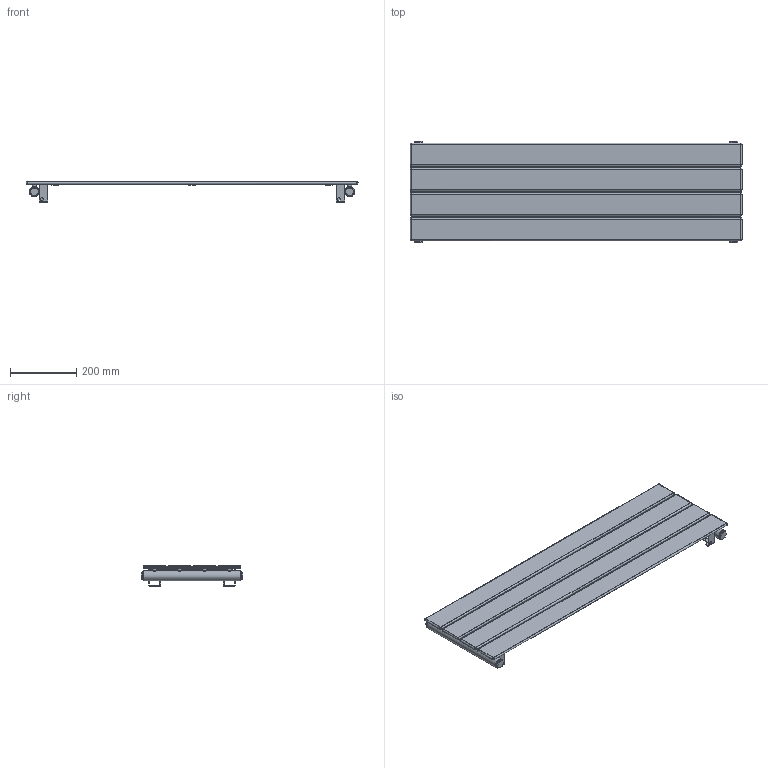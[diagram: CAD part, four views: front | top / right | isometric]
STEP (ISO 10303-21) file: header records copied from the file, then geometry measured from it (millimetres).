
FILE_DESCRIPTION(/* description */ (''),/* implementation_level */ '2;1');
FILE_NAME(/* name */ 'C:\Grzejniki\13DLUXRAD\pokojowe\NIAGARA\to\NIAGARA 1000x295.iam.stp',/* time_stamp */ '2016-06-28T17:33:31+02:00',/* author */ ('m.szydziak'),/* organization */ (''),/* preprocessor_version */ 'ST-DEVELOPER v16.5',/* originating_system */ 'Autodesk Inventor 2017',/* authorisation */ '');
FILE_SCHEMA (('AUTOMOTIVE_DESIGN { 1 0 10303 214 3 1 1 }'));
Length unit declared in the file: millimetre
Products named in the file (8): NIAGARA 1000x295; %%C30x1,5x295; 70x8x1,2x1004; michałek; ucho duze; ucho duze 2; poprzeczka 255; korek
Assembly tree (25 placements, depth 2):
  NIAGARA 1000x295
    %%C30x1,5x295  x2
    70x8x1,2x1004  x4
    michałek  x8
    ucho duze  x2
    ucho duze 2  x2
    poprzeczka 255  x3
    korek  x4
Bounding box: 1000 x 307 x 62.5 mm (x, y, z)
Volume: 855194.7 mm3; surface area: 1345485.8 mm2
Topology: 25 solids, 25 shells, 366 faces, 862 edges, 544 vertices
Faces by surface type: plane 210, cylinder 124, sphere 32
Full cylindrical faces by diameter (mm): 8 x8, 9 x8, 10 x16, 11.5 x8, 18.631 x4, 24 x4, 27 x2, 30 x2
Entity records: 4140 total; most frequent: CARTESIAN_POINT 951, DIRECTION 655, ORIENTED_EDGE 550, EDGE_CURVE 275, AXIS2_PLACEMENT_3D 241, VERTEX_POINT 179, LINE 173, VECTOR 173
